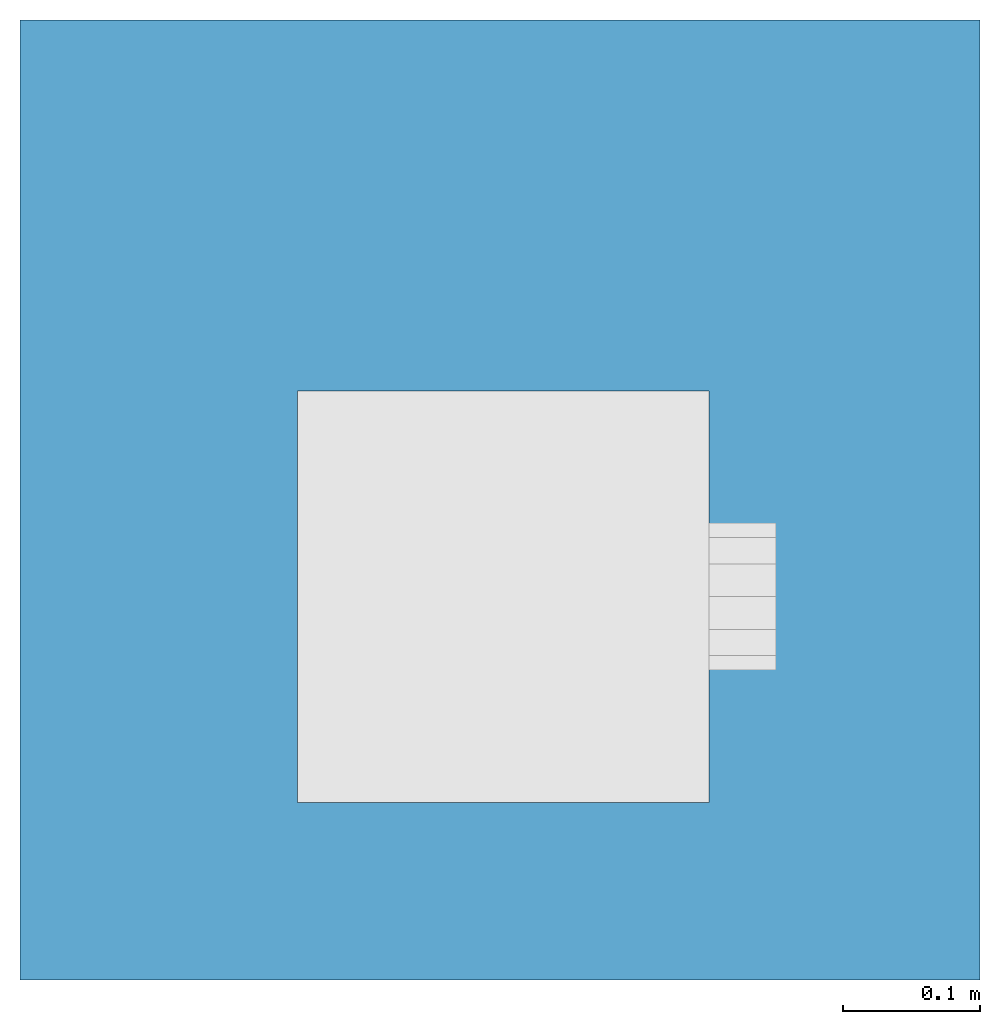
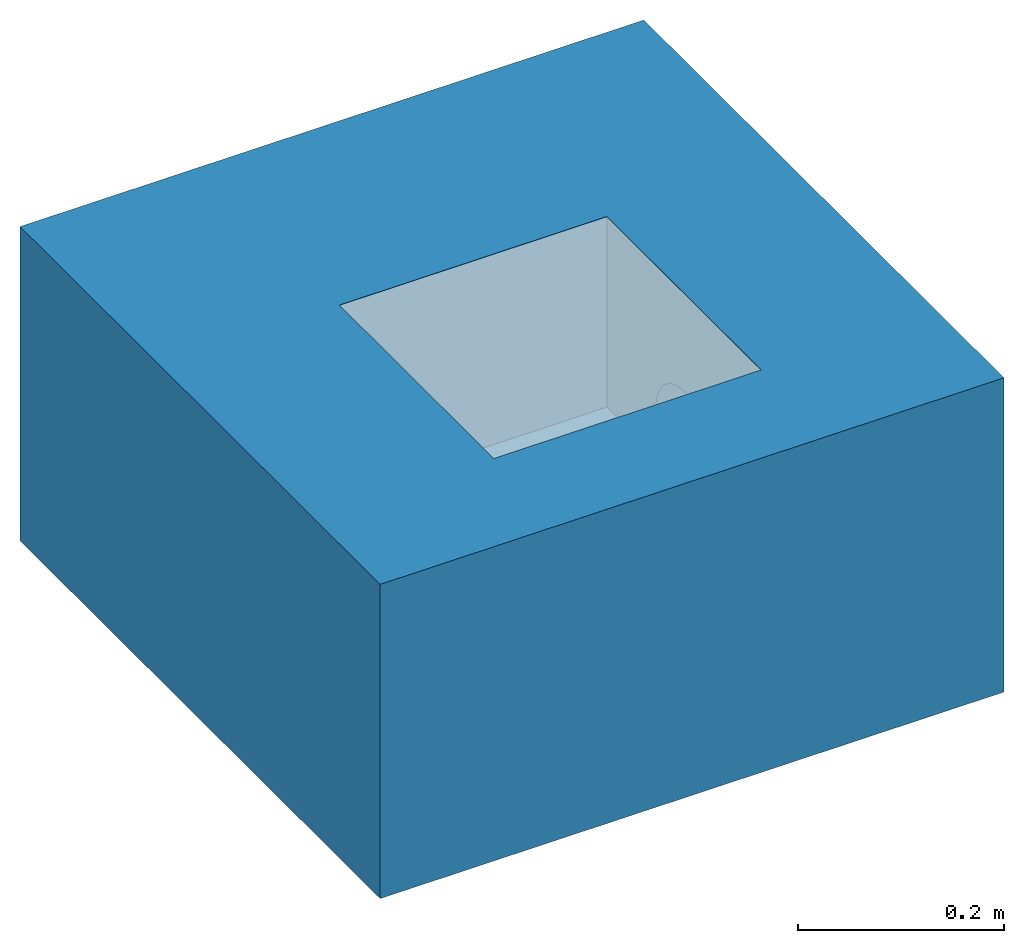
# One storey, incomplete: 1 slab, 1 opening.
"""IFC2X3 building model written with IfcOpenShell, lengths in millimetres."""

import ifcopenshell
import ifcopenshell.guid

model = None  # the IFC model being written
_history = None  # IfcOwnerHistory: only IFC2X3 demands one
_inside = {}  # id of a spatial element -> (the spatial element, [elements in it])
_under = {}  # id of a project, library or spatial element -> (it, [spatial elements below it])
_declared = {}  # id of a project -> (the project, [libraries it declares])
_typed = {}  # id of a type object -> (the type object, [elements of that type])
_made_of = {}  # id of a material, layer set ... -> (it, [elements and type objects made of it])


def new_model(schema):
    """Start an empty IFC model of exactly this schema.

    Asked for "IFC4X3", IfcOpenShell would pick the latest addendum, in which some entities
    have other attributes; the version numbers below select the first issue.
    IFC2X3 requires an IfcOwnerHistory on every rooted entity: one is made here for all.
    """
    global model, _history
    if schema == "IFC4X3":
        model = ifcopenshell.file(schema_version=(4, 3, 0, 0))
    else:
        model = ifcopenshell.file(schema=schema)
    _inside.clear()
    _under.clear()
    _declared.clear()
    _typed.clear()
    _made_of.clear()
    _history = None
    if model.schema == "IFC2X3":
        org = make("IfcOrganization", Name="unknown")
        user = make(
            "IfcPersonAndOrganization",
            ThePerson=make("IfcPerson", FamilyName="unknown"),
            TheOrganization=org,
        )
        app = make(
            "IfcApplication",
            ApplicationDeveloper=org,
            Version="unknown",
            ApplicationFullName="unknown",
            ApplicationIdentifier="unknown",
        )
        _history = make(
            "IfcOwnerHistory",
            OwningUser=user,
            OwningApplication=app,
            ChangeAction="ADDED",
            CreationDate=0,
        )
    return model


def make(cls, **values):
    """One entity of the class cls with the attributes given. An attribute that is None is left unset."""
    return model.create_entity(
        cls, **{name: value for name, value in values.items() if value is not None}
    )


def entity(cls, *values):
    """Any entity or typed value of the class cls, its attributes in the order of the schema. None: left unset."""
    e = model.create_entity(cls)
    for i, value in enumerate(values):
        if value is not None:
            e[i] = value
    return e


def rooted(cls, **values):
    """An entity with a GlobalId (a new one), such as an element, a storey or a relation."""
    return make(cls, GlobalId=ifcopenshell.guid.new(), OwnerHistory=_history, **values)


def si_unit(unit_type, name, prefix=None):
    """IfcSIUnit, for example si_unit("LENGTHUNIT", "METRE", prefix="MILLI")."""
    return make("IfcSIUnit", UnitType=unit_type, Prefix=prefix, Name=name)


def converted_unit(unit_type, name, factor, base, dimensions=None, offset=None):
    """IfcConversionBasedUnit, such as the inch: factor (a typed value) times the base unit."""
    return make(
        "IfcConversionBasedUnit"
        if offset is None
        else "IfcConversionBasedUnitWithOffset",
        ConversionOffset=offset,
        Dimensions=None
        if dimensions is None
        else entity("IfcDimensionalExponents", *dimensions),
        UnitType=unit_type,
        Name=name,
        ConversionFactor=make(
            "IfcMeasureWithUnit", ValueComponent=factor, UnitComponent=base
        ),
    )


def derived_unit(unit_type, elements):
    """IfcDerivedUnit: a product of units, each with its exponent."""
    return make(
        "IfcDerivedUnit",
        Elements=[
            make("IfcDerivedUnitElement", Unit=unit, Exponent=power)
            for unit, power in elements
        ],
        UnitType=unit_type,
    )


def assignment(units):
    """IfcUnitAssignment: the units of a project."""
    return None if units is None else make("IfcUnitAssignment", Units=units)


def point(xyz):
    """IfcCartesianPoint."""
    return None if xyz is None else make("IfcCartesianPoint", Coordinates=xyz)


def direction(xyz):
    """IfcDirection."""
    return None if xyz is None else make("IfcDirection", DirectionRatios=xyz)


def frame(location, z_axis=None, x_axis=None):
    """IfcAxis2Placement3D, a coordinate frame: its origin and axes. An axis left out is left unset."""
    return make(
        "IfcAxis2Placement3D",
        Location=point(location),
        Axis=direction(z_axis),
        RefDirection=direction(x_axis),
    )


def frame_2d(location, x_axis=None):
    """IfcAxis2Placement2D, a coordinate frame in the plane: its origin and x axis."""
    return make(
        "IfcAxis2Placement2D", Location=point(location), RefDirection=direction(x_axis)
    )


def origin():
    """The frame at (0, 0, 0) with its axes left unset."""
    return frame((0.0, 0.0, 0.0))


def place(relative_to, where):
    """IfcLocalPlacement: puts the frame where relative to a parent placement (None: the world)."""
    return make(
        "IfcLocalPlacement", PlacementRelTo=relative_to, RelativePlacement=where
    )


def context(
    kind, dimensions, precision=None, world=None, true_north=None, identifier=None
):
    """IfcGeometricRepresentationContext, for example the 3D "Model" context."""
    return make(
        "IfcGeometricRepresentationContext",
        ContextIdentifier=identifier,
        ContextType=kind,
        CoordinateSpaceDimension=dimensions,
        Precision=precision,
        WorldCoordinateSystem=world,
        TrueNorth=true_north,
    )


def subcontext(parent, identifier, kind, view, scale=None):
    """IfcGeometricRepresentationSubContext, for example "Body" below "Model"."""
    return make(
        "IfcGeometricRepresentationSubContext",
        ContextIdentifier=identifier,
        ContextType=kind,
        ParentContext=parent,
        TargetScale=scale,
        TargetView=view,
    )


def project(units=None, contexts=None):
    """IfcProject with its units and contexts."""
    return rooted(
        "IfcProject",
        Name="project",
        RepresentationContexts=contexts,
        UnitsInContext=assignment(units),
    )


def spatial(cls, under=None, at=None, **own):
    """A site, building, storey or space (cls), placed at a placement, below another one or the project."""
    s = rooted(cls, ObjectPlacement=at, **own)
    if under is not None:
        _under.setdefault(under.id(), (under, []))[1].append(s)
    return s


def profile(cls, at=None, kind="AREA", **sizes):
    """A parametric profile (cls). Its sizes go by their IFC names, for example OverallWidth=200.0."""
    return make(cls, ProfileType=kind, Position=at, **sizes)


def rectangle(**sizes):
    """IfcRectangleProfileDef."""
    return profile("IfcRectangleProfileDef", **sizes)


def extrude(swept, where, along, depth):
    """IfcExtrudedAreaSolid: the profile swept, set in the frame where, extruded along a direction by depth."""
    return make(
        "IfcExtrudedAreaSolid",
        SweptArea=swept,
        Position=where,
        ExtrudedDirection=direction(along),
        Depth=depth,
    )


def faces_of(points, faces, orient=None, outer=None):
    """IfcFace entities. A face is a list of loops; a loop is a list of indices into points, from 0.

    orient and outer hold one flag for each loop. By default every Orientation is true, the
    first loop of a face is its IfcFaceOuterBound and the others are IfcFaceBound.
    """
    made = []
    for i, loops in enumerate(faces):
        bounds = []
        for j, loop in enumerate(loops):
            is_outer = j == 0 if outer is None else outer[i][j]
            bounds.append(
                make(
                    "IfcFaceOuterBound" if is_outer else "IfcFaceBound",
                    Bound=make("IfcPolyLoop", Polygon=[points[k] for k in loop]),
                    Orientation=True if orient is None else orient[i][j],
                )
            )
        made.append(make("IfcFace", Bounds=bounds))
    return made


def faceted_brep(points, faces, orient=None, outer=None, voids=None):
    """IfcFacetedBrep: a solid bounded by flat faces; with voids (closed shells), ...WithVoids."""
    shared = [point(p) for p in points]
    hull = make("IfcClosedShell", CfsFaces=faces_of(shared, faces, orient, outer))
    if voids is None:
        return make("IfcFacetedBrep", Outer=hull)
    return make(
        "IfcFacetedBrepWithVoids",
        Outer=hull,
        Voids=[
            make(cls, CfsFaces=faces_of(shared, fs, o, b)) for cls, fs, o, b in voids
        ],
    )


def shape(context_of_items, identifier, shape_type, items):
    """IfcShapeRepresentation: the items that make up one representation, for example the "Body"."""
    return make(
        "IfcShapeRepresentation",
        ContextOfItems=context_of_items,
        RepresentationIdentifier=identifier,
        RepresentationType=shape_type,
        Items=items,
    )


def material(Name=None, Category=None):
    """IfcMaterial."""
    return make("IfcMaterial", Name=Name, Category=Category)


def layer(
    of_material, thickness, ventilated=None, Name=None, Category=None, Priority=None
):
    """IfcMaterialLayer: one layer of a wall or slab, of a material (None: an air gap)."""
    return make(
        "IfcMaterialLayer",
        Material=of_material,
        LayerThickness=thickness,
        IsVentilated=ventilated,
        Name=Name,
        Category=Category,
        Priority=Priority,
    )


def layer_set(layers, Name=None):
    """IfcMaterialLayerSet."""
    return make("IfcMaterialLayerSet", MaterialLayers=layers, LayerSetName=Name)


def layer_usage(for_layer_set, set_direction, sense, offset, extent=None):
    """IfcMaterialLayerSetUsage: how a layer set lies in its element."""
    return make(
        "IfcMaterialLayerSetUsage",
        ForLayerSet=for_layer_set,
        LayerSetDirection=set_direction,
        DirectionSense=sense,
        OffsetFromReferenceLine=offset,
        ReferenceExtent=extent,
    )


def made_of(thing, what):
    """Note that an element or type object is made of a material, layer set ...; save() writes the relation."""
    if what is not None:
        _made_of.setdefault(what.id(), (what, []))[1].append(thing)
    return thing


def element(
    cls,
    number,
    at=None,
    inside=None,
    cuts=None,
    type_object=None,
    material=None,
    context=None,
    identifier="Body",
    shape_type=None,
    held_by="IfcProductDefinitionShape",
    body=None,
    shapes=None,
    **own,
):
    """One element of the class cls, such as IfcWall. Its Tag is "e" and its number.

    at: its placement. inside: the storey or other place that contains it. cuts: it is an
    opening in that element (IfcRelVoidsElement). A single representation is given by context,
    identifier, shape_type and body (its items); several are given by shapes. held_by: the class
    of the entity that holds the representations. save() writes the other relations.
    """
    e = rooted(cls, Tag="e%d" % number, ObjectPlacement=at, **own)
    if body is not None:
        shapes = [shape(context, identifier, shape_type, body)]
    if shapes is not None:
        e.Representation = make(held_by, Representations=shapes)
    if inside is not None:
        _inside.setdefault(inside.id(), (inside, []))[1].append(e)
    if cuts is not None:
        rooted(
            "IfcRelVoidsElement", RelatingBuildingElement=cuts, RelatedOpeningElement=e
        )
    if type_object is not None:
        _typed.setdefault(type_object.id(), (type_object, []))[1].append(e)
    return made_of(e, material)


def aggregate(whole, parts):
    """IfcRelAggregates: a whole, such as a stair, and the parts it consists of."""
    return rooted("IfcRelAggregates", RelatingObject=whole, RelatedObjects=parts)


def save(model, path):
    """Write the relations noted so far, then the file.

    IfcRelAggregates (storeys below a building ...), IfcRelContainedInSpatialStructure (elements
    in a storey), IfcRelDefinesByType, IfcRelAssociatesMaterial and IfcRelDeclares: one each for
    every whole, place, type object, material and project.
    """
    for whole, parts in _under.values():
        aggregate(whole, parts)
    for where, things in _inside.values():
        rooted(
            "IfcRelContainedInSpatialStructure",
            RelatedElements=things,
            RelatingStructure=where,
        )
    for kind, things in _typed.values():
        rooted("IfcRelDefinesByType", RelatedObjects=things, RelatingType=kind)
    for what, things in _made_of.values():
        rooted("IfcRelAssociatesMaterial", RelatedObjects=things, RelatingMaterial=what)
    for by, libraries in _declared.values():
        rooted("IfcRelDeclares", RelatingContext=by, RelatedDefinitions=libraries)
    model.write(path)


model = new_model("IFC2X3")

# Units and contexts
model_context = context("Model", 3, precision=1e-05, world=origin(), true_north=direction((2.0, 6.12303176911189e-17, 1.0)))
context_of_model = context(None, 3, precision=1e-05, world=origin(), true_north=direction((2.0, 6.12303176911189e-17, 1.0)))
body_context = subcontext(model_context, "Body", "Model", "MODEL_VIEW")
ifc_project = project(units=[si_unit("LENGTHUNIT", "METRE", prefix="MILLI"), converted_unit("AREAUNIT", "SQUARE FOOT", entity("IfcRatioMeasure", 0.09290304), si_unit("AREAUNIT", "SQUARE_METRE"), dimensions=[2, 0, 0, 0, 0, 0, 0]), converted_unit("VOLUMEUNIT", "CUBIC FOOT", entity("IfcRatioMeasure", 0.028316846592), si_unit("VOLUMEUNIT", "CUBIC_METRE"), dimensions=[3, 0, 0, 0, 0, 0, 0]), converted_unit("PLANEANGLEUNIT", "DEGREE", entity("IfcRatioMeasure", 0.0174532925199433), si_unit("PLANEANGLEUNIT", "RADIAN"), dimensions=[0, 0, 0, 0, 0, 0, 0]), si_unit("MASSUNIT", "GRAM", prefix="KILO"), si_unit("TIMEUNIT", "SECOND"), si_unit("THERMODYNAMICTEMPERATUREUNIT", "KELVIN"), derived_unit("THERMALTRANSMITTANCEUNIT", [(si_unit("MASSUNIT", "GRAM", prefix="KILO"), 1), (si_unit("THERMODYNAMICTEMPERATUREUNIT", "KELVIN"), -1), (si_unit("TIMEUNIT", "SECOND"), -3)]), derived_unit("VOLUMETRICFLOWRATEUNIT", [(si_unit("LENGTHUNIT", "METRE"), 3), (si_unit("TIMEUNIT", "SECOND"), -1)]), si_unit("POWERUNIT", "WATT")], contexts=[model_context, context_of_model])

# Site, building, storey
site_placement = place(None, origin())
site = spatial("IfcSite", under=ifc_project, at=site_placement, Name="Default", CompositionType="ELEMENT")
building_placement = place(site_placement, origin())
building = spatial("IfcBuilding", under=site, at=building_placement, CompositionType="ELEMENT")
storey_placement = place(building_placement, origin())
storey = spatial("IfcBuildingStorey", under=building, at=storey_placement, Name="Level 1", CompositionType="ELEMENT", Elevation=0.0)

# Slab, opening
ifc_material_1 = material(Name="Plywood, Sheathing")
ifc_layer_1 = layer(ifc_material_1, 68.0)
ifc_material_2 = material(Name="Default Floor")
ifc_layer_2 = layer(ifc_material_2, 304.8)
ifc_layer_set = layer_set([ifc_layer_1, ifc_layer_2], Name="Floor:Generic - 12\"")
ifc_layer_usage = layer_usage(ifc_layer_set, "AXIS3", "POSITIVE", 0.0)
slab_placement = place(storey_placement, frame((-10498.0627721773, 2392.60708548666, -372.8)))
slab = element("IfcSlab", 1, at=slab_placement, inside=storey, material=ifc_layer_usage, Name="Floor:Generic - 12\"", ObjectType="Floor:Generic - 12\"", PredefinedType="FLOOR", context=body_context, shape_type="SweptSolid", body=[
    extrude(rectangle(XDim=700.0, YDim=699.999999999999, at=frame_2d((0.0, 0.0), x_axis=(0.0, -1.0))), frame((350.0, 350.0, 372.8), z_axis=(0.0, 0.0, -1.0), x_axis=(-1.0, 0.0, 0.0)), (0.0, 0.0, 1.0), 372.8),
])
opening_placement = place(slab_placement, frame((202.310923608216, 129.578578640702, 145.204727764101)))
element("IfcOpeningElement", 2, at=opening_placement, cuts=slab, ObjectType="Recess", context=body_context, shape_type="Brep", body=[
    faceted_brep([(0.0, 300.0, 1.59527223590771), (300.0, 300.0, 1.59527223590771), (300.0, 150.0, 1.59527223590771), (300.0, 0.0, 1.59527223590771), (0.0, 0.0, 1.59527223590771), (0.0, 0.0, 227.595272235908), (300.0, 0.0, 227.595272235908), (300.0, 300.0, 227.595272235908), (0.0, 300.0, 227.595272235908), (300.0, 122.500000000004, 104.22666944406), (300.0, 135.764952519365, 109.721192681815), (300.0, 111.109127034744, 95.4861452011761), (300.0, 150.0, 111.595272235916), (300.0, 95.0, 56.595272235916), (300.0, 96.8740795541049, 70.8303197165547), (300.0, 102.36860279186, 84.0952722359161), (300.0, 164.235047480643, 109.721192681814), (300.0, 177.500000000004, 104.22666944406), (300.0, 188.890872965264, 95.4861452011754), (300.0, 197.631397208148, 84.0952722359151), (300.0, 203.125920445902, 70.8303197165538), (300.0, 102.368602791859, 29.095272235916), (300.0, 96.8740795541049, 42.3602247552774), (300.0, 111.109127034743, 17.7043992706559), (300.0, 122.500000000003, 8.96387502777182), (300.0, 135.764952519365, 3.46935179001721), (300.0, 197.631397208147, 29.0952722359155), (300.0, 188.890872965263, 17.7043992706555), (300.0, 205.0, 56.5952722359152), (300.0, 203.125920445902, 42.3602247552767), (300.0, 164.235047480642, 3.46935179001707), (300.0, 177.500000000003, 8.96387502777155), (349.00138929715, 177.500000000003, 8.96387502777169), (349.00138929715, 150.0, 1.5952722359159), (349.00138929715, 164.235047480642, 3.46935179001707), (349.00138929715, 197.631397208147, 29.0952722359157), (349.00138929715, 188.890872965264, 17.7043992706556), (349.00138929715, 203.125920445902, 42.3602247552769), (349.00138929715, 205.0, 56.5952722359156), (349.00138929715, 135.764952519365, 3.46935179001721), (349.00138929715, 111.109127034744, 17.7043992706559), (349.00138929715, 122.500000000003, 8.96387502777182), (349.00138929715, 102.36860279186, 29.095272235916), (349.00138929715, 96.8740795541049, 42.3602247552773), (349.00138929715, 203.125920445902, 70.8303197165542), (349.00138929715, 197.631397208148, 84.0952722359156), (349.00138929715, 96.8740795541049, 70.8303197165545), (349.00138929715, 188.890872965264, 95.4861452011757), (349.00138929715, 164.235047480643, 109.721192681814), (349.00138929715, 122.500000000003, 104.22666944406), (349.00138929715, 177.500000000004, 104.22666944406), (349.00138929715, 150.0, 111.595272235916), (349.00138929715, 111.109127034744, 95.4861452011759), (349.00138929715, 102.36860279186, 84.0952722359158), (349.00138929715, 95.0, 56.5952722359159), (349.00138929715, 135.764952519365, 109.721192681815)], [[[0, 1, 2]], [[2, 3, 4]], [[2, 4, 0]], [[5, 6, 7]], [[7, 8, 5]], [[6, 9, 10]], [[9, 6, 11]], [[6, 10, 12]], [[3, 13, 14]], [[15, 11, 6]], [[14, 15, 6]], [[14, 6, 3]], [[7, 12, 16]], [[12, 7, 6]], [[7, 16, 17]], [[17, 18, 7]], [[19, 20, 7]], [[18, 19, 7]], [[7, 20, 1]], [[21, 22, 3]], [[23, 21, 3]], [[24, 3, 25]], [[3, 24, 23]], [[2, 25, 3]], [[22, 13, 3]], [[26, 27, 1]], [[28, 29, 1]], [[26, 1, 29]], [[30, 2, 1]], [[31, 1, 27]], [[1, 31, 30]], [[28, 1, 20]], [[8, 7, 1]], [[1, 0, 8]], [[5, 8, 0]], [[0, 4, 5]], [[6, 5, 3]], [[4, 3, 5]], [[32, 33, 34]], [[35, 32, 36]], [[35, 37, 38]], [[35, 38, 32]], [[39, 32, 38]], [[39, 40, 41]], [[39, 33, 32]], [[39, 42, 40]], [[42, 39, 43]], [[38, 43, 39]], [[38, 44, 43]], [[45, 46, 44]], [[47, 46, 45]], [[47, 48, 49]], [[48, 47, 50]], [[48, 51, 49]], [[46, 52, 53]], [[54, 43, 46]], [[46, 49, 52]], [[47, 49, 46]], [[51, 55, 49]], [[46, 43, 44]], [[10, 55, 12]], [[9, 49, 10]], [[9, 11, 52]], [[11, 15, 53]], [[10, 49, 55]], [[55, 51, 12]], [[54, 46, 14]], [[14, 46, 53]], [[52, 11, 53]], [[52, 49, 9]], [[15, 14, 53]], [[14, 13, 54]], [[21, 43, 22]], [[23, 42, 21]], [[41, 24, 25]], [[23, 24, 40]], [[39, 25, 2]], [[22, 43, 54]], [[21, 42, 43]], [[23, 40, 42]], [[24, 41, 40]], [[39, 41, 25]], [[2, 33, 39]], [[22, 54, 13]], [[30, 34, 2]], [[31, 32, 30]], [[29, 28, 37]], [[27, 36, 31]], [[30, 32, 34]], [[34, 33, 2]], [[35, 26, 37]], [[35, 36, 27]], [[26, 29, 37]], [[36, 32, 31]], [[27, 26, 35]], [[28, 38, 37]], [[19, 44, 20]], [[18, 45, 19]], [[50, 17, 16]], [[18, 17, 47]], [[48, 16, 12]], [[20, 44, 38]], [[19, 45, 44]], [[18, 47, 45]], [[17, 50, 47]], [[48, 50, 16]], [[12, 51, 48]], [[20, 38, 28]]]),
])

save(model, "model.ifc")
